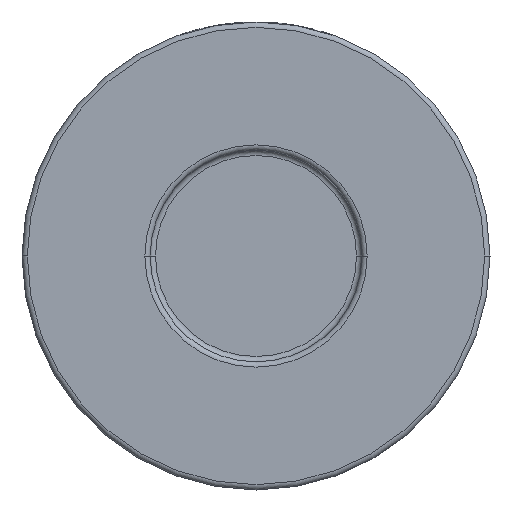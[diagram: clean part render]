
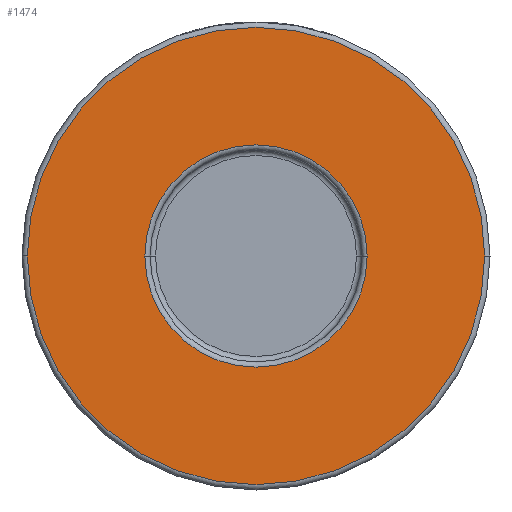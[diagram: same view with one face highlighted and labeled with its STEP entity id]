
A CAD part, front view. The second image highlights one B-rep face of the part: STEP entity #1474.
In plain terms, the highlighted planar face has unit normal (0, -1, 0).
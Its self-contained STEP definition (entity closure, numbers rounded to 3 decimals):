
#127 = DIRECTION ( 'NONE',  ( 0., 1., 0. ) ) ;
#174 = EDGE_CURVE ( 'NONE', #621, #568, #1341, .T. ) ;
#177 = FACE_BOUND ( 'NONE', #4185, .T. ) ;
#324 = AXIS2_PLACEMENT_3D ( 'NONE', #2616, #2588, #4343 ) ;
#563 = CARTESIAN_POINT ( 'NONE',  ( 0., -19., 0. ) ) ;
#568 = VERTEX_POINT ( 'NONE', #3307 ) ;
#614 = AXIS2_PLACEMENT_3D ( 'NONE', #2745, #3878, #2772 ) ;
#621 = VERTEX_POINT ( 'NONE', #898 ) ;
#791 = EDGE_CURVE ( 'NONE', #2447, #1623, #2821, .T. ) ;
#898 = CARTESIAN_POINT ( 'NONE',  ( -43., -19., 0. ) ) ;
#997 = CIRCLE ( 'NONE', #324, 43. ) ;
#1153 = CARTESIAN_POINT ( 'NONE',  ( 20.9, -19., 0. ) ) ;
#1270 = EDGE_LOOP ( 'NONE', ( #1663, #1613 ) ) ;
#1341 = CIRCLE ( 'NONE', #2896, 43. ) ;
#1474 = ADVANCED_FACE ( 'NONE', ( #177, #3277 ), #2303, .T. ) ;
#1613 = ORIENTED_EDGE ( 'NONE', *, *, #174, .T. ) ;
#1623 = VERTEX_POINT ( 'NONE', #2738 ) ;
#1663 = ORIENTED_EDGE ( 'NONE', *, *, #4315, .T. ) ;
#1675 = ORIENTED_EDGE ( 'NONE', *, *, #791, .T. ) ;
#1911 = DIRECTION ( 'NONE',  ( 0., -1., 0. ) ) ;
#2232 = DIRECTION ( 'NONE',  ( 1., 0., 0. ) ) ;
#2261 = CARTESIAN_POINT ( 'NONE',  ( 44., -19., 0. ) ) ;
#2303 = PLANE ( 'NONE',  #2671 ) ;
#2447 = VERTEX_POINT ( 'NONE', #1153 ) ;
#2588 = DIRECTION ( 'NONE',  ( 0., -1., 0. ) ) ;
#2616 = CARTESIAN_POINT ( 'NONE',  ( 0., -19., 0. ) ) ;
#2671 = AXIS2_PLACEMENT_3D ( 'NONE', #2261, #1911, #3658 ) ;
#2738 = CARTESIAN_POINT ( 'NONE',  ( -20.9, -19., 0. ) ) ;
#2745 = CARTESIAN_POINT ( 'NONE',  ( 0., -19., 0. ) ) ;
#2772 = DIRECTION ( 'NONE',  ( 1., 0., 0. ) ) ;
#2821 = CIRCLE ( 'NONE', #3189, 20.9 ) ;
#2896 = AXIS2_PLACEMENT_3D ( 'NONE', #563, #3382, #3768 ) ;
#2988 = CIRCLE ( 'NONE', #614, 20.9 ) ;
#2989 = ORIENTED_EDGE ( 'NONE', *, *, #3195, .T. ) ;
#3189 = AXIS2_PLACEMENT_3D ( 'NONE', #4024, #127, #2232 ) ;
#3195 = EDGE_CURVE ( 'NONE', #1623, #2447, #2988, .T. ) ;
#3277 = FACE_OUTER_BOUND ( 'NONE', #1270, .T. ) ;
#3307 = CARTESIAN_POINT ( 'NONE',  ( 43., -19., 0. ) ) ;
#3382 = DIRECTION ( 'NONE',  ( 0., -1., 0. ) ) ;
#3658 = DIRECTION ( 'NONE',  ( 1., 0., 0. ) ) ;
#3768 = DIRECTION ( 'NONE',  ( 1., 0., 0. ) ) ;
#3878 = DIRECTION ( 'NONE',  ( 0., 1., 0. ) ) ;
#4024 = CARTESIAN_POINT ( 'NONE',  ( 0., -19., 0. ) ) ;
#4185 = EDGE_LOOP ( 'NONE', ( #1675, #2989 ) ) ;
#4315 = EDGE_CURVE ( 'NONE', #568, #621, #997, .T. ) ;
#4343 = DIRECTION ( 'NONE',  ( 1., 0., 0. ) ) ;
